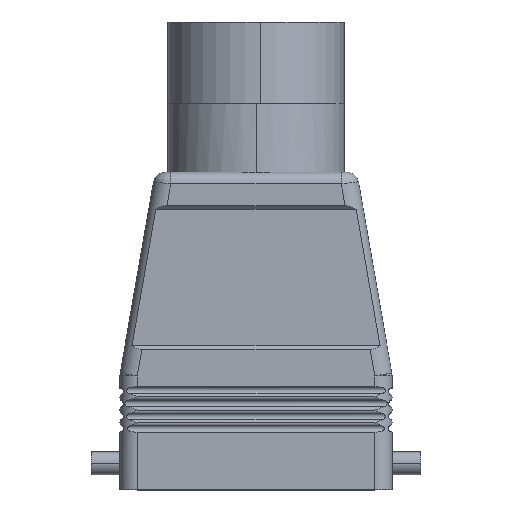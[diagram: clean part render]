
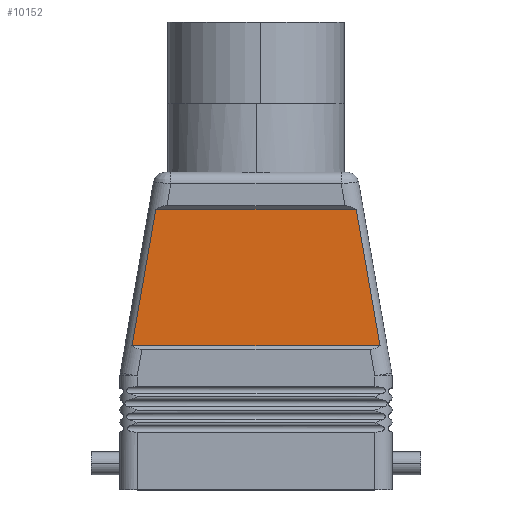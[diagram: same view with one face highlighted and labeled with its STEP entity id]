
A CAD part, top view. The second image highlights one B-rep face of the part: STEP entity #10152.
In plain terms, the highlighted planar face has unit normal (0, 0, 1).
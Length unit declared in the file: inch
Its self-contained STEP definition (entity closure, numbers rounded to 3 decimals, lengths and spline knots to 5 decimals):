
#580 = FACE_OUTER_BOUND ( 'NONE', #1836, .T. ) ;
#642 = CARTESIAN_POINT ( 'NONE',  ( -0.86991, 2.435, 0.81645 ) ) ;
#734 = ORIENTED_EDGE ( 'NONE', *, *, #7027, .T. ) ;
#742 = EDGE_CURVE ( 'NONE', #8019, #5792, #3239, .T. ) ;
#1315 = VECTOR ( 'NONE', #6679, 39.37008 ) ;
#1836 = EDGE_LOOP ( 'NONE', ( #9034, #734, #7252, #1977 ) ) ;
#1977 = ORIENTED_EDGE ( 'NONE', *, *, #3042, .T. ) ;
#2230 = AXIS2_PLACEMENT_3D ( 'NONE', #2789, #3526, #8285 ) ;
#2632 = LINE ( 'NONE', #6655, #1315 ) ;
#2789 = CARTESIAN_POINT ( 'NONE',  ( -2.5, 2.465, 0.81645 ) ) ;
#3042 = EDGE_CURVE ( 'NONE', #5792, #8720, #6397, .T. ) ;
#3130 = VECTOR ( 'NONE', #8289, 39.37008 ) ;
#3173 = VECTOR ( 'NONE', #8080, 39.37008 ) ;
#3239 = LINE ( 'NONE', #8031, #3173 ) ;
#3397 = CARTESIAN_POINT ( 'NONE',  ( 1.07659, 1.25, 0.81645 ) ) ;
#3526 = DIRECTION ( 'NONE',  ( 0., 0., -1. ) ) ;
#4261 = CARTESIAN_POINT ( 'NONE',  ( 0.86991, 2.435, 0.81645 ) ) ;
#5308 = VECTOR ( 'NONE', #8317, 39.37008 ) ;
#5789 = LINE ( 'NONE', #9848, #5308 ) ;
#5792 = VERTEX_POINT ( 'NONE', #4261 ) ;
#6397 = LINE ( 'NONE', #8188, #3130 ) ;
#6655 = CARTESIAN_POINT ( 'NONE',  ( -0.8205, 2.71827, 0.81645 ) ) ;
#6679 = DIRECTION ( 'NONE',  ( -0.172, -0.985, 0. ) ) ;
#7027 = EDGE_CURVE ( 'NONE', #8183, #8019, #5789, .T. ) ;
#7252 = ORIENTED_EDGE ( 'NONE', *, *, #742, .T. ) ;
#8019 = VERTEX_POINT ( 'NONE', #3397 ) ;
#8031 = CARTESIAN_POINT ( 'NONE',  ( 0.761, 3.05941, 0.81645 ) ) ;
#8080 = DIRECTION ( 'NONE',  ( -0.172, 0.985, 0. ) ) ;
#8183 = VERTEX_POINT ( 'NONE', #9741 ) ;
#8188 = CARTESIAN_POINT ( 'NONE',  ( -0.86468, 2.435, 0.81645 ) ) ;
#8285 = DIRECTION ( 'NONE',  ( 0., 1., 0. ) ) ;
#8289 = DIRECTION ( 'NONE',  ( -1., 0., 0. ) ) ;
#8317 = DIRECTION ( 'NONE',  ( 1., 0., 0. ) ) ;
#8411 = EDGE_CURVE ( 'NONE', #8720, #8183, #2632, .T. ) ;
#8720 = VERTEX_POINT ( 'NONE', #642 ) ;
#9034 = ORIENTED_EDGE ( 'NONE', *, *, #8411, .T. ) ;
#9055 = PLANE ( 'NONE',  #2230 ) ;
#9741 = CARTESIAN_POINT ( 'NONE',  ( -1.07659, 1.25, 0.81645 ) ) ;
#9848 = CARTESIAN_POINT ( 'NONE',  ( 1.08182, 1.25, 0.81645 ) ) ;
#10152 = ADVANCED_FACE ( 'NONE', ( #580 ), #9055, .F. ) ;
